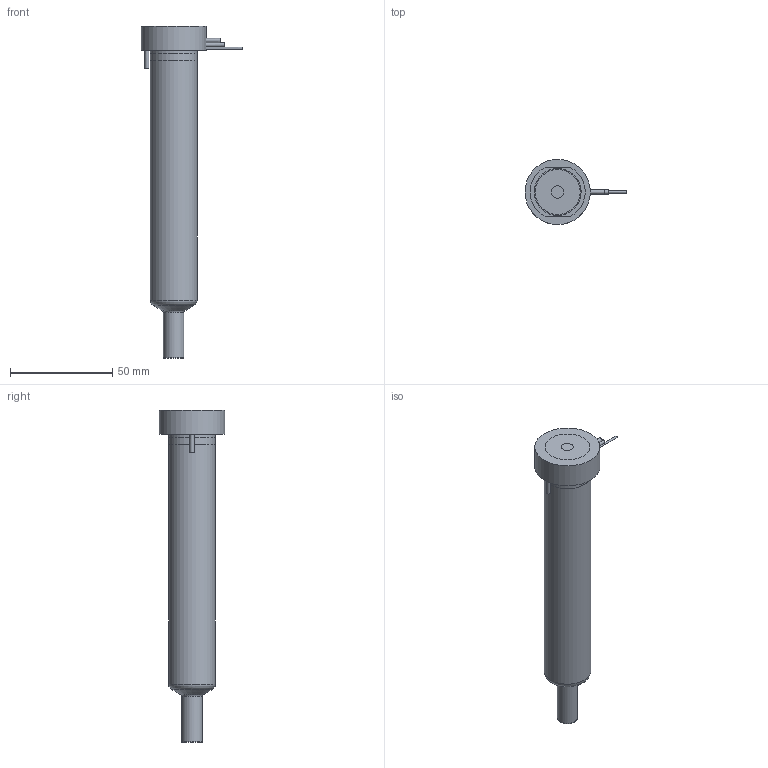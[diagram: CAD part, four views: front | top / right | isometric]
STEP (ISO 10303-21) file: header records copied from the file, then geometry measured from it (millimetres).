
FILE_DESCRIPTION(/* description */ (''),/* implementation_level */ '2;1');
FILE_NAME(/* name */ 'MXYCN13130P4F_200C_a',/* time_stamp */ '2016-02-26T13:42:33+13:00',/* author */ (''),/* organization */ (''),/* preprocessor_version */ 'ST-DEVELOPER v9',/* originating_system */ 'UGS - NX 4.0',/* authorisation */ '');
FILE_SCHEMA (('CONFIG_CONTROL_DESIGN'));
Length unit declared in the file: millimetre
Products named in the file (1): matt70754g18
Bounding box: 49.95 x 32 x 162.62 mm (x, y, z)
Volume: 105379.9 mm3; surface area: 23936.5 mm2
Topology: 2 solids, 2 shells, 71 faces, 156 edges, 102 vertices
Faces by surface type: plane 31, cylinder 26, torus 7, cone 5, bspline 1, sphere 1
Full cylindrical faces by diameter (mm): 1 x2, 1.8 x1, 2 x3, 4 x1, 6 x1, 9.61 x1, 9.995 x2, 12.6 x1, 18.8 x1, 22.9 x1, 23 x2, 32 x1
Entity records: 2121 total; most frequent: CARTESIAN_POINT 614, DIRECTION 314, ORIENTED_EDGE 234, AXIS2_PLACEMENT_3D 141, EDGE_CURVE 117, EDGE_LOOP 114, VERTEX_POINT 91, ADVANCED_FACE 71
